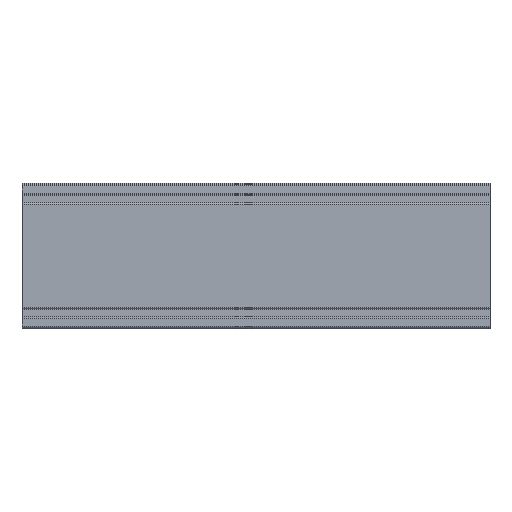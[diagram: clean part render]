
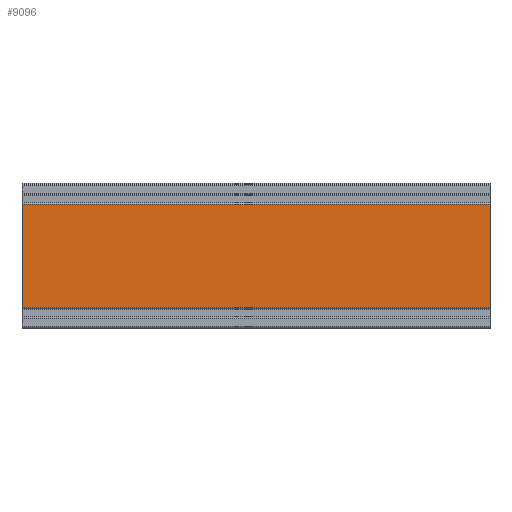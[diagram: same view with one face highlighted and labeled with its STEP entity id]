
A CAD part, top view. The second image highlights one B-rep face of the part: STEP entity #9096.
In plain terms, the highlighted planar face has unit normal (0, 0, 1).
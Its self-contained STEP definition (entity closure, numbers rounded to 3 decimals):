
#389 = FACE_OUTER_BOUND ( 'NONE', #8023, .T. ) ;
#767 = VERTEX_POINT ( 'NONE', #5671 ) ;
#1008 = EDGE_CURVE ( 'NONE', #2788, #767, #3099, .T. ) ;
#1332 = VECTOR ( 'NONE', #3741, 1000. ) ;
#1378 = CARTESIAN_POINT ( 'NONE',  ( -450., 42.65, 50. ) ) ;
#1400 = AXIS2_PLACEMENT_3D ( 'NONE', #2097, #3631, #6068 ) ;
#1433 = VECTOR ( 'NONE', #7862, 1000. ) ;
#1503 = CARTESIAN_POINT ( 'NONE',  ( -450., 0., 50. ) ) ;
#1628 = CARTESIAN_POINT ( 'NONE',  ( 0., 42.65, 50. ) ) ;
#2097 = CARTESIAN_POINT ( 'NONE',  ( -450., 0., 50. ) ) ;
#2322 = EDGE_CURVE ( 'NONE', #4512, #2788, #9295, .T. ) ;
#2673 = VERTEX_POINT ( 'NONE', #1628 ) ;
#2788 = VERTEX_POINT ( 'NONE', #3233 ) ;
#3056 = EDGE_CURVE ( 'NONE', #4512, #2673, #4294, .T. ) ;
#3089 = ORIENTED_EDGE ( 'NONE', *, *, #1008, .T. ) ;
#3099 = LINE ( 'NONE', #4837, #9201 ) ;
#3233 = CARTESIAN_POINT ( 'NONE',  ( -450., -57.15, 50. ) ) ;
#3340 = ORIENTED_EDGE ( 'NONE', *, *, #2322, .T. ) ;
#3415 = VECTOR ( 'NONE', #10298, 1000. ) ;
#3631 = DIRECTION ( 'NONE',  ( 0., 0., 1. ) ) ;
#3663 = CARTESIAN_POINT ( 'NONE',  ( 0., 0., 50. ) ) ;
#3741 = DIRECTION ( 'NONE',  ( 1., 0., 0. ) ) ;
#3778 = PLANE ( 'NONE',  #1400 ) ;
#3928 = EDGE_CURVE ( 'NONE', #2673, #767, #10135, .T. ) ;
#4294 = LINE ( 'NONE', #1378, #1332 ) ;
#4512 = VERTEX_POINT ( 'NONE', #9549 ) ;
#4837 = CARTESIAN_POINT ( 'NONE',  ( -450., -57.15, 50. ) ) ;
#5671 = CARTESIAN_POINT ( 'NONE',  ( 0., -57.15, 50. ) ) ;
#6068 = DIRECTION ( 'NONE',  ( 1., 0., 0. ) ) ;
#6439 = DIRECTION ( 'NONE',  ( 1., 0., 0. ) ) ;
#7862 = DIRECTION ( 'NONE',  ( 0., -1., 0. ) ) ;
#8022 = ORIENTED_EDGE ( 'NONE', *, *, #3928, .F. ) ;
#8023 = EDGE_LOOP ( 'NONE', ( #8022, #9023, #3340, #3089 ) ) ;
#9023 = ORIENTED_EDGE ( 'NONE', *, *, #3056, .F. ) ;
#9096 = ADVANCED_FACE ( 'NONE', ( #389 ), #3778, .T. ) ;
#9201 = VECTOR ( 'NONE', #6439, 1000. ) ;
#9295 = LINE ( 'NONE', #1503, #3415 ) ;
#9549 = CARTESIAN_POINT ( 'NONE',  ( -450., 42.65, 50. ) ) ;
#10135 = LINE ( 'NONE', #3663, #1433 ) ;
#10298 = DIRECTION ( 'NONE',  ( 0., -1., 0. ) ) ;
